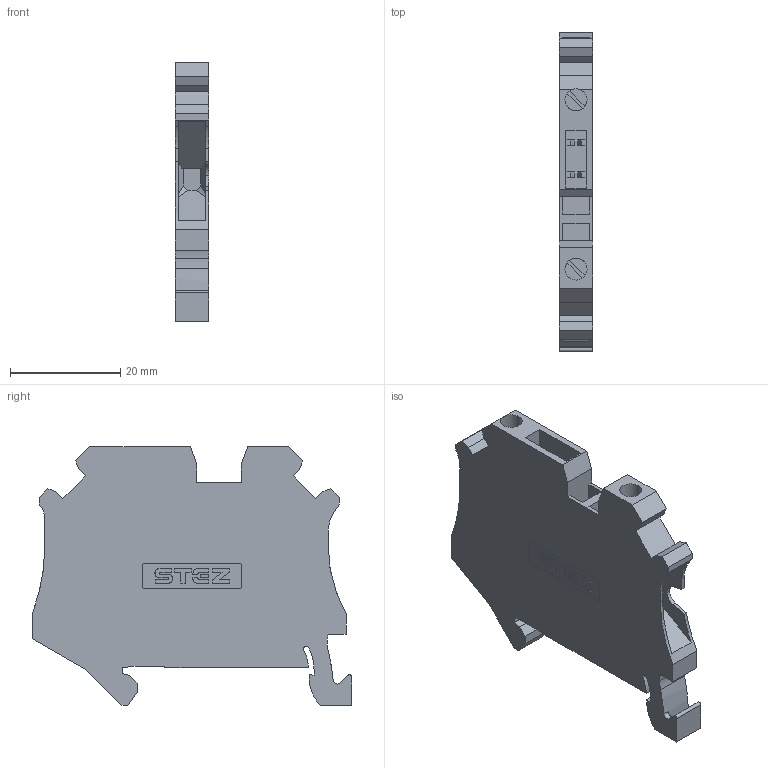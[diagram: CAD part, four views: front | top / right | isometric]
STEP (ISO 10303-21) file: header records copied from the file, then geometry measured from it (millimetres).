
FILE_DESCRIPTION(('TFLEX Exchange Step'),'2;1');
FILE_NAME('11200011_КНВ_4-2-ВСТ-С.stp', '2024-03-13T15:00:12+03:00',('apanin'),('Unknown organisation'),'TFLEX Exchange 2023.2','T-FLEX CAD','Unknown authorisation');
FILE_SCHEMA( ('AUTOMOTIVE_DESIGN { 1 0 10303 214 1 1 1 1 }') );
Length unit declared in the file: millimetre
Products named in the file (1): Тело_1 - UT_4-TG-select:1
Bounding box: 6.15 x 57.8 x 46.85 mm (x, y, z)
Volume: 10630.8 mm3; surface area: 6909.6 mm2
Topology: 1 solids, 1 shells, 392 faces, 1136 edges, 755 vertices
Faces by surface type: plane 197, cylinder 195
Full cylindrical faces by diameter (mm): 4 x2
Entity records: 13109 total; most frequent: DIRECTION 2324, CARTESIAN_POINT 2290, ORIENTED_EDGE 2272, EDGE_CURVE 1136, AXIS2_PLACEMENT_3D 797, VERTEX_POINT 755, VECTOR 730, LINE 730
